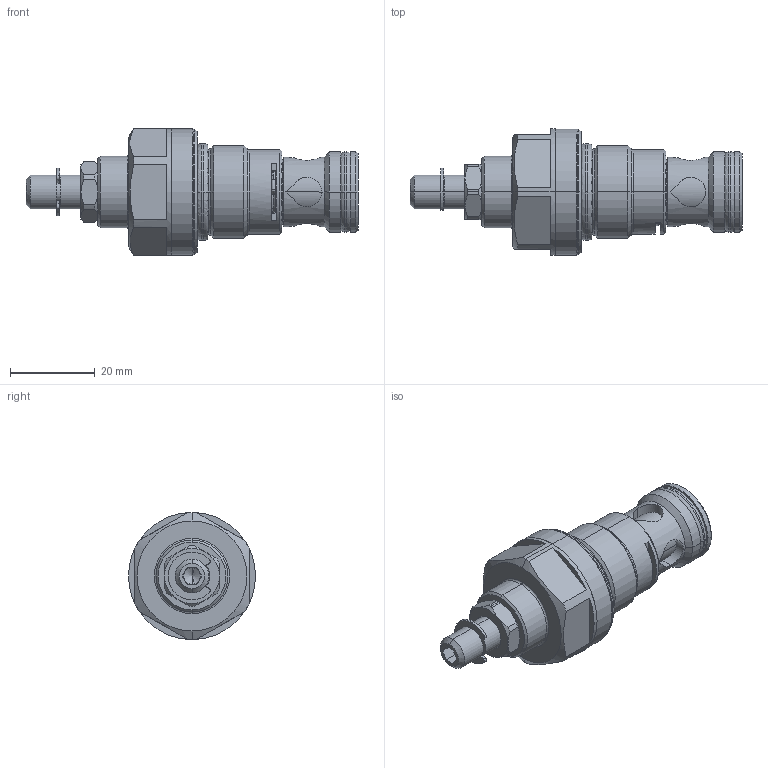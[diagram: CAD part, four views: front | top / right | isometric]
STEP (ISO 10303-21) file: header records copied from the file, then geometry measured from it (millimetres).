
FILE_DESCRIPTION (( 'STEP AP214' ), '1' );
FILE_NAME ('QRSPM22.STEP', '2017-03-24T12:52:54', ( '' ), ( '' ), 'SwSTEP 2.0', 'SolidWorks 2016', '' );
FILE_SCHEMA (( 'AUTOMOTIVE_DESIGN' ));
Length unit declared in the file: millimetre
Products named in the file (1): QRSPM22
Bounding box: 78.5 x 30 x 30 mm (x, y, z)
Volume: 23474.2 mm3; surface area: 9201.7 mm2
Topology: 3 solids, 5 shells, 351 faces, 853 edges, 530 vertices
Faces by surface type: cylinder 130, plane 97, cone 65, torus 43, bspline 16
Entity records: 14985 total; most frequent: CARTESIAN_POINT 3122, DIRECTION 1782, ORIENTED_EDGE 1694, EDGE_CURVE 847, AXIS2_PLACEMENT_3D 756, VERTEX_POINT 530, CIRCLE 420, EDGE_LOOP 385
